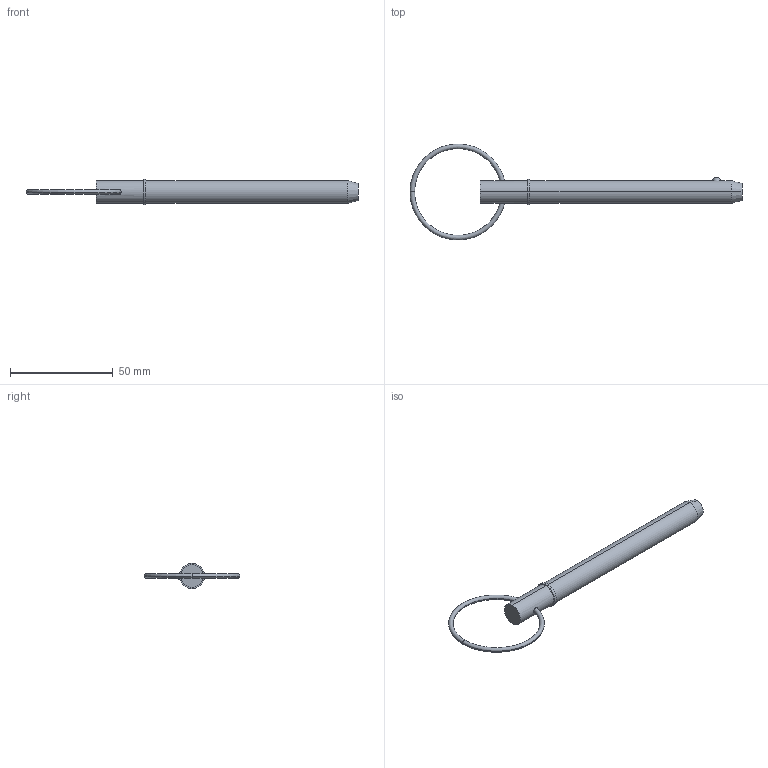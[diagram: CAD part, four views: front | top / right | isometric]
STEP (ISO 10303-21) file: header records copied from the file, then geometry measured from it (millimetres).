
FILE_DESCRIPTION (( 'STEP AP203' ), '1' );
FILE_NAME ('33014.W4335.step', '2024-11-04T08:28:39', ( '' ), ( '' ), 'SwSTEP 2.0', 'SolidWorks 2019', '' );
FILE_SCHEMA (( 'CONFIG_CONTROL_DESIGN' ));
Length unit declared in the file: millimetre
Products named in the file (3): 33014.W4335; Part2_33014.W4335; Part1_33014.W4335
Assembly tree (2 placements, depth 2):
  33014.W4335
    Part1_33014.W4335
    Part2_33014.W4335
Bounding box: 161.52 x 46.67 x 12.22 mm (x, y, z)
Volume: 12734.3 mm3; surface area: 5689.5 mm2
Topology: 2 solids, 2 shells, 22 faces, 43 edges, 26 vertices
Faces by surface type: torus 8, cylinder 6, plane 4, sphere 2, cone 2
Entity records: 1023 total; most frequent: CARTESIAN_POINT 246, DIRECTION 120, ORIENTED_EDGE 86, AXIS2_PLACEMENT_3D 56, EDGE_CURVE 43, CIRCLE 29, EDGE_LOOP 27, PERSON_AND_ORGANIZATION 26
